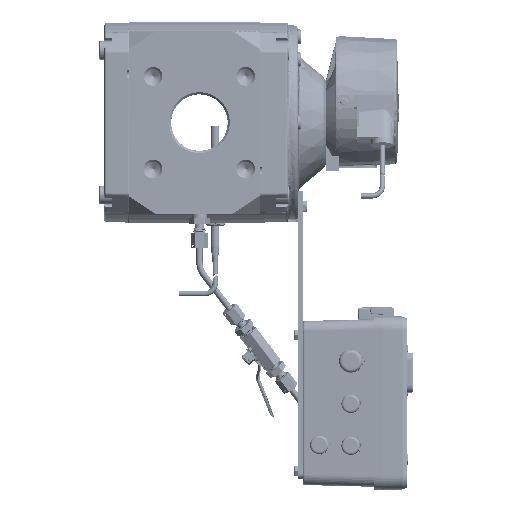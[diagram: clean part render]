
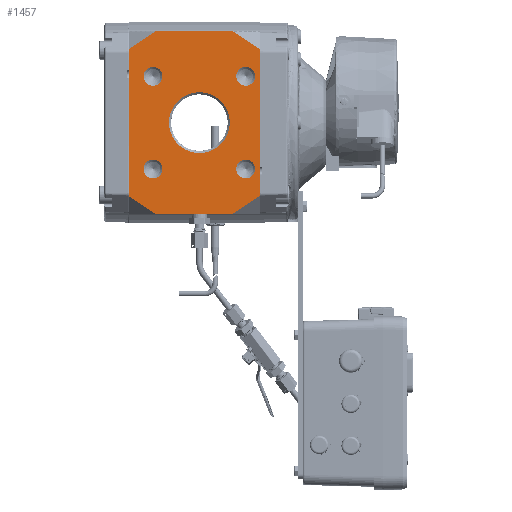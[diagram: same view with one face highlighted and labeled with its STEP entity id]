
A CAD part, left-side view. The second image highlights one B-rep face of the part: STEP entity #1457.
In plain terms, the highlighted planar face has unit normal (-1, 0, 0).
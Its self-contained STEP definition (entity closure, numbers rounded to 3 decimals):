
#1457=ADVANCED_FACE('',(#45484,#45486,#45488,#45490,#45492,#45494),#45496,.T.);
#45484=FACE_BOUND('',#45485,.T.);
#45485=EDGE_LOOP('',(#116300,#116301,#116302,#116303,#116304,#116305,#116306,#116307));
#45486=FACE_BOUND('',#45487,.T.);
#45487=EDGE_LOOP('',(#116308));
#45488=FACE_BOUND('',#45489,.T.);
#45489=EDGE_LOOP('',(#116309));
#45490=FACE_BOUND('',#45491,.T.);
#45491=EDGE_LOOP('',(#116310));
#45492=FACE_BOUND('',#45493,.T.);
#45493=EDGE_LOOP('',(#116311));
#45494=FACE_BOUND('',#45495,.T.);
#45495=EDGE_LOOP('',(#116312));
#45496=PLANE('',#45497);
#45497=AXIS2_PLACEMENT_3D('',#45498,#45499,#45500);
#45498=CARTESIAN_POINT('',(-85.5,0.,-87.));
#45499=DIRECTION('',(-1.,0.,0.));
#45500=DIRECTION('',(0.,0.,1.));
#116300=ORIENTED_EDGE('',*,*,#143802,.T.);
#116301=ORIENTED_EDGE('',*,*,#143493,.F.);
#116302=ORIENTED_EDGE('',*,*,#143789,.T.);
#116303=ORIENTED_EDGE('',*,*,#143803,.F.);
#116304=ORIENTED_EDGE('',*,*,#143804,.T.);
#116305=ORIENTED_EDGE('',*,*,#143805,.T.);
#116306=ORIENTED_EDGE('',*,*,#143806,.T.);
#116307=ORIENTED_EDGE('',*,*,#143807,.T.);
#116308=ORIENTED_EDGE('',*,*,#143808,.T.);
#116309=ORIENTED_EDGE('',*,*,#143809,.T.);
#116310=ORIENTED_EDGE('',*,*,#143810,.T.);
#116311=ORIENTED_EDGE('',*,*,#143811,.T.);
#116312=ORIENTED_EDGE('',*,*,#143812,.T.);
#143493=EDGE_CURVE('',#155663,#155665,#155666,.T.);
#143789=EDGE_CURVE('',#155663,#156178,#156179,.T.);
#143802=EDGE_CURVE('',#156203,#155665,#156204,.T.);
#143803=EDGE_CURVE('',#156205,#156178,#156206,.T.);
#143804=EDGE_CURVE('',#156205,#156207,#156208,.T.);
#143805=EDGE_CURVE('',#156207,#156209,#156210,.T.);
#143806=EDGE_CURVE('',#156209,#156211,#156212,.T.);
#143807=EDGE_CURVE('',#156211,#156203,#156213,.T.);
#143808=EDGE_CURVE('',#156214,#156214,#156215,.T.);
#143809=EDGE_CURVE('',#156216,#156216,#156217,.T.);
#143810=EDGE_CURVE('',#156218,#156218,#156219,.T.);
#143811=EDGE_CURVE('',#156220,#156220,#156221,.T.);
#143812=EDGE_CURVE('',#156222,#156222,#156223,.T.);
#155663=VERTEX_POINT('',#176208);
#155665=VERTEX_POINT('',#176212);
#155666=LINE('',#176213,#176214);
#156178=VERTEX_POINT('',#178140);
#156179=LINE('',#178141,#178142);
#156203=VERTEX_POINT('',#178202);
#156204=LINE('',#178203,#178204);
#156205=VERTEX_POINT('',#178206);
#156206=LINE('',#178207,#178208);
#156207=VERTEX_POINT('',#178210);
#156208=LINE('',#178211,#178212);
#156209=VERTEX_POINT('',#178214);
#156210=LINE('',#178215,#178216);
#156211=VERTEX_POINT('',#178218);
#156212=LINE('',#178219,#178220);
#156213=LINE('',#178222,#178223);
#156214=VERTEX_POINT('',#178225);
#156215=CIRCLE('',#178226,29.);
#156216=VERTEX_POINT('',#178230);
#156217=CIRCLE('',#178231,9.);
#156218=VERTEX_POINT('',#178235);
#156219=CIRCLE('',#178236,9.);
#156220=VERTEX_POINT('',#178240);
#156221=CIRCLE('',#178241,9.);
#156222=VERTEX_POINT('',#178245);
#156223=CIRCLE('',#178246,9.);
#176208=CARTESIAN_POINT('',(-85.5,125.,-70.));
#176212=CARTESIAN_POINT('',(-85.5,125.,70.));
#176213=CARTESIAN_POINT('',(-85.5,125.,-70.));
#176214=VECTOR('',#176215,1.);
#176215=DIRECTION('',(0.,0.,1.));
#178140=CARTESIAN_POINT('',(-85.5,99.512,-87.));
#178141=CARTESIAN_POINT('',(-85.5,125.,-70.));
#178142=VECTOR('',#178143,1.);
#178143=DIRECTION('',(0.,-0.832,-0.555));
#178202=CARTESIAN_POINT('',(-85.5,99.512,87.));
#178203=CARTESIAN_POINT('',(-85.5,99.512,87.));
#178204=VECTOR('',#178205,1.);
#178205=DIRECTION('',(0.,0.832,-0.555));
#178206=CARTESIAN_POINT('',(-85.5,25.488,-87.));
#178207=CARTESIAN_POINT('',(-85.5,25.488,-87.));
#178208=VECTOR('',#178209,1.);
#178209=DIRECTION('',(0.,1.,0.));
#178210=CARTESIAN_POINT('',(-85.5,0.,-70.));
#178211=CARTESIAN_POINT('',(-85.5,25.488,-87.));
#178212=VECTOR('',#178213,1.);
#178213=DIRECTION('',(0.,-0.832,0.555));
#178214=CARTESIAN_POINT('',(-85.5,0.,70.));
#178215=CARTESIAN_POINT('',(-85.5,0.,-70.));
#178216=VECTOR('',#178217,1.);
#178217=DIRECTION('',(0.,0.,1.));
#178218=CARTESIAN_POINT('',(-85.5,25.488,87.));
#178219=CARTESIAN_POINT('',(-85.5,0.,70.));
#178220=VECTOR('',#178221,1.);
#178221=DIRECTION('',(0.,0.832,0.555));
#178222=CARTESIAN_POINT('',(-85.5,25.488,87.));
#178223=VECTOR('',#178224,1.);
#178224=DIRECTION('',(0.,1.,0.));
#178225=CARTESIAN_POINT('',(-85.5,57.5,29.));
#178226=AXIS2_PLACEMENT_3D('',#178227,#178228,#178229);
#178227=CARTESIAN_POINT('',(-85.5,57.5,0.));
#178228=DIRECTION('',(1.,0.,0.));
#178229=DIRECTION('',(0.,0.,1.));
#178230=CARTESIAN_POINT('',(-85.5,101.7,53.2));
#178231=AXIS2_PLACEMENT_3D('',#178232,#178233,#178234);
#178232=CARTESIAN_POINT('',(-85.5,101.7,44.2));
#178233=DIRECTION('',(1.,0.,0.));
#178234=DIRECTION('',(0.,0.,1.));
#178235=CARTESIAN_POINT('',(-85.5,13.3,-53.2));
#178236=AXIS2_PLACEMENT_3D('',#178237,#178238,#178239);
#178237=CARTESIAN_POINT('',(-85.5,13.3,-44.2));
#178238=DIRECTION('',(1.,0.,0.));
#178239=DIRECTION('',(0.,0.,-1.));
#178240=CARTESIAN_POINT('',(-85.5,110.7,-44.2));
#178241=AXIS2_PLACEMENT_3D('',#178242,#178243,#178244);
#178242=CARTESIAN_POINT('',(-85.5,101.7,-44.2));
#178243=DIRECTION('',(1.,0.,0.));
#178244=DIRECTION('',(0.,1.,0.));
#178245=CARTESIAN_POINT('',(-85.5,4.3,44.2));
#178246=AXIS2_PLACEMENT_3D('',#178247,#178248,#178249);
#178247=CARTESIAN_POINT('',(-85.5,13.3,44.2));
#178248=DIRECTION('',(1.,0.,0.));
#178249=DIRECTION('',(0.,-1.,0.));
